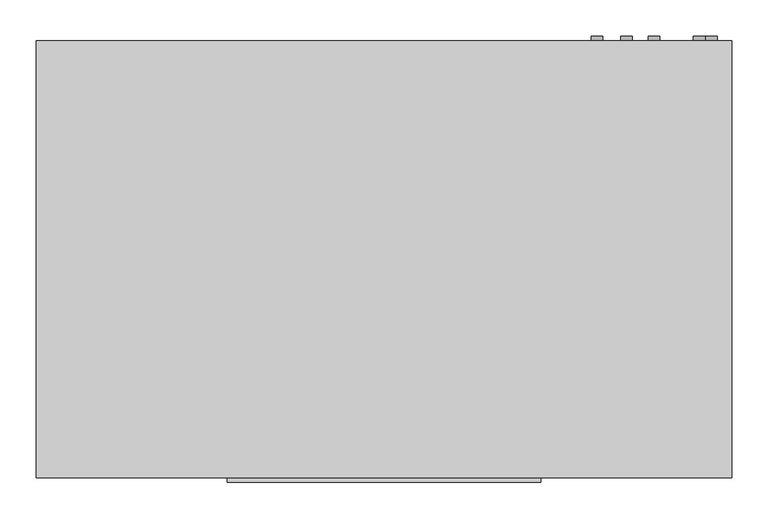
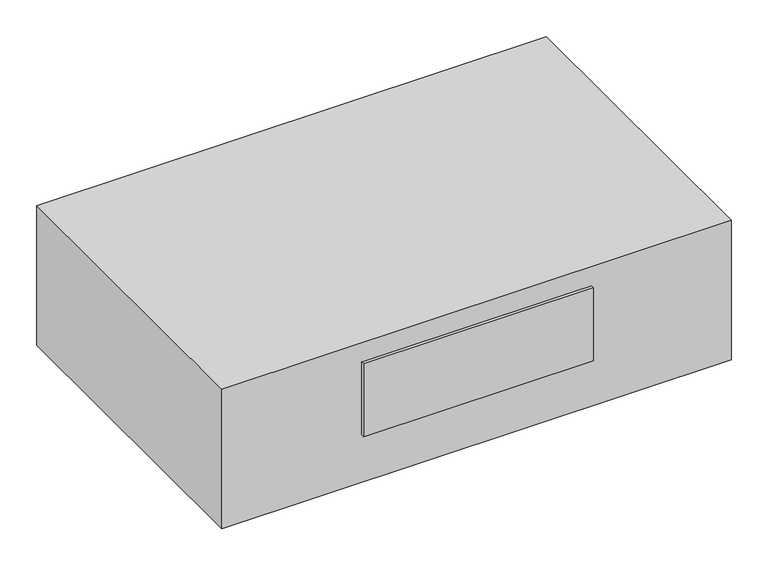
"""IFC4 building model written with IfcOpenShell, lengths in millimetres: proxy geometry, Exposed_Horizontal_Fan_Coil_Unit_-_42CGB_-_CARRIER_-_4-Pipe_FS-BR_RH_2022 : Size 02 - 277v/60Hz/1Ph - 4/1 Coil."""

from ifc_helpers import new_model, si_unit, point, frame, frame_2d, origin, place, context, project, spatial, polyline, circle_curve, trimmed, segment, composite_curve, outline, extrude, source, transform, mapped, element, save


def mechanical_equipment_d0c3bb7a(model_context):
    return source(origin(), model_context, "Body", "SweptSolid", [
        extrude(outline(composite_curve([segment(trimmed(circle_curve(frame_2d((-85.725, 606.425)), 7.9375), [point((-85.725, 614.3625))], [point((-85.725, 598.4875))], False, "CARTESIAN"), True, "CONTINUOUS"), segment(trimmed(circle_curve(frame_2d((-85.725, 606.425)), 7.9375), [point((-85.725, 598.4875))], [point((-85.725, 614.3625))], False, "CARTESIAN"), True, "CONTINUOUS")], self_intersect=False)), frame((0.0, 65.0875, 0.0), z_axis=(0.0, 1.0, 0.0), x_axis=(0.0, 0.0, 1.0)), (0.0, 0.0, 1.0), 6.35),
        extrude(outline(composite_curve([segment(trimmed(circle_curve(frame_2d((-44.45, 527.05)), 7.9375), [point((-44.45, 534.9875))], [point((-44.45, 519.1125))], False, "CARTESIAN"), True, "CONTINUOUS"), segment(trimmed(circle_curve(frame_2d((-44.45, 527.05)), 7.9375), [point((-44.45, 519.1125))], [point((-44.45, 534.9875))], False, "CARTESIAN"), True, "CONTINUOUS")], self_intersect=False)), frame((0.0, 65.0875, 0.0), z_axis=(0.0, 1.0, 0.0), x_axis=(0.0, 0.0, 1.0)), (0.0, 0.0, 1.0), 6.35),
        extrude(outline(composite_curve([segment(trimmed(circle_curve(frame_2d((-95.25, 488.95)), 7.9375), [point((-95.25, 496.8875))], [point((-95.25, 481.0125))], False, "CARTESIAN"), True, "CONTINUOUS"), segment(trimmed(circle_curve(frame_2d((-95.25, 488.95)), 7.9375), [point((-95.25, 481.0125))], [point((-95.25, 496.8875))], False, "CARTESIAN"), True, "CONTINUOUS")], self_intersect=False)), frame((0.0, 65.0875, 0.0), z_axis=(0.0, 1.0, 0.0), x_axis=(0.0, 0.0, 1.0)), (0.0, 0.0, 1.0), 6.35),
        extrude(outline(composite_curve([segment(trimmed(circle_curve(frame_2d((-60.325, 447.675)), 7.9375), [point((-60.325, 455.6125))], [point((-60.325, 439.7375))], False, "CARTESIAN"), True, "CONTINUOUS"), segment(trimmed(circle_curve(frame_2d((-60.325, 447.675)), 7.9375), [point((-60.325, 439.7375))], [point((-60.325, 455.6125))], False, "CARTESIAN"), True, "CONTINUOUS")], self_intersect=False)), frame((0.0, 65.0875, 0.0), z_axis=(0.0, 1.0, 0.0), x_axis=(0.0, 0.0, 1.0)), (0.0, 0.0, 1.0), 6.35),
        extrude(outline(composite_curve([segment(trimmed(circle_curve(frame_2d((-260.35, 590.55)), 9.525), [point((-260.35, 600.075))], [point((-260.35, 581.025))], False, "CARTESIAN"), True, "CONTINUOUS"), segment(trimmed(circle_curve(frame_2d((-260.35, 590.55)), 9.525), [point((-260.35, 581.025))], [point((-260.35, 600.075))], False, "CARTESIAN"), True, "CONTINUOUS")], self_intersect=False)), frame((0.0, 65.0875, 0.0), z_axis=(0.0, 1.0, 0.0), x_axis=(0.0, 0.0, 1.0)), (0.0, 0.0, 1.0), 6.35),
        extrude(outline(polyline([(-330.2, 65.0875), (635.0, 65.0875), (635.0, -541.3375), (-330.2, -541.3375), (-330.2, 65.0875)])), frame((0.0, 0.0, -279.4), z_axis=(0.0, 0.0, 1.0), x_axis=(1.0, 0.0, 0.0)), (0.0, 0.0, 1.0), 279.4),
        extrude(outline(polyline([(369.8875, -547.6875), (-65.0875, -547.6875), (-65.0875, -541.3375), (369.8875, -541.3375), (369.8875, -547.6875)])), frame((0.0, 0.0, -184.15), z_axis=(0.0, 0.0, 1.0), x_axis=(1.0, 0.0, 0.0)), (0.0, 0.0, 1.0), 146.05),
        extrude(outline(polyline([(450.85, -11.1125), (450.85, -265.1125), (-146.05, -265.1125), (-146.05, -11.1125), (450.85, -11.1125)])), frame((0.0, 0.0, -285.75), z_axis=(0.0, 0.0, 1.0), x_axis=(1.0, 0.0, 0.0)), (0.0, 0.0, 1.0), 6.35),
    ])


if __name__ == "__main__":
    model = new_model("IFC4")
    model_context = context("Model", 3, world=origin())
    ifc_project = project(units=[si_unit("LENGTHUNIT", "METRE", prefix="MILLI")], contexts=[model_context])
    site = spatial("IfcSite", under=ifc_project)
    building = spatial("IfcBuilding", under=site)
    placement = place(None, origin())
    mechanical_equipment_shape = mechanical_equipment_d0c3bb7a(model_context)
    element("IfcBuildingElementProxy", 1, Name="Exposed_Horizontal_Fan_Coil_Unit_-_42CGB_-_CARRIER_-_4-Pipe_FS-BR_RH_2022 : Size 02 - 277v/60Hz/1Ph - 4/1 Coil", ObjectType="Exposed_Horizontal_Fan_Coil_Unit_-_42CGB_-_CARRIER_-_4-Pipe_FS-BR_RH_2022 : Size 02 - 277v/60Hz/1Ph - 4/1 Coil", at=placement, inside=building, context=model_context, shape_type="MappedRepresentation", body=[
        mapped(mechanical_equipment_shape, transform((0.0, 0.0, 0.0), x_axis=(1.0, 0.0, 0.0), y_axis=(0.0, 1.0, 0.0), z_axis=(0.0, 0.0, 1.0))),
    ])
    save(model, "model.ifc")
